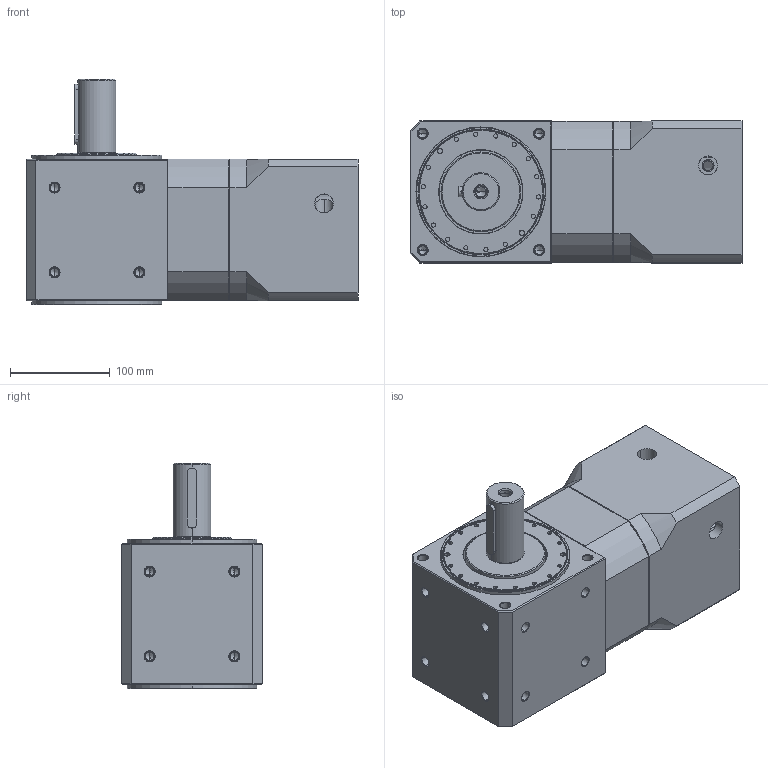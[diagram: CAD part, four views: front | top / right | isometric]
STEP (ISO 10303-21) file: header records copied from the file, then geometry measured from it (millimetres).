
FILE_DESCRIPTION (( 'STEP AP203' ), '1' );
FILE_NAME ('WS150SF-¡¼-24-110-145-M8(1¡G2°tGNP150L1).STEP', '2014-08-06T07:13:21', ( ' ' ), ( '' ), 'SwSTEP 2.0', 'SolidWorks 2012', '' );
FILE_SCHEMA (( 'CONFIG_CONTROL_DESIGN' ));
Length unit declared in the file: millimetre
Products named in the file (1): WS150SF-¡¼-24-110-145-M8(1¡G2°tGNP150L1)
Bounding box: 332.5 x 142 x 226 mm (x, y, z)
Volume: 4098285 mm3; surface area: 602999.7 mm2
Topology: 9 solids, 9 shells, 1054 faces, 2418 edges, 1427 vertices
Faces by surface type: cylinder 433, cone 388, plane 201, torus 24, bspline 8
Entity records: 31215 total; most frequent: CARTESIAN_POINT 6911, DIRECTION 5541, ORIENTED_EDGE 4676, EDGE_CURVE 2338, AXIS2_PLACEMENT_3D 2284, VERTEX_POINT 1427, EDGE_LOOP 1263, CIRCLE 1237
